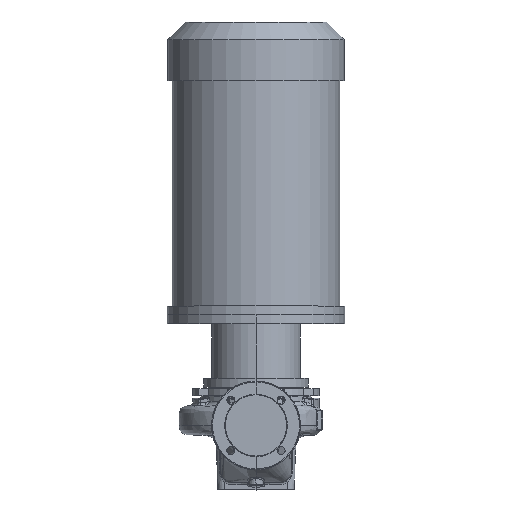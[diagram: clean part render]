
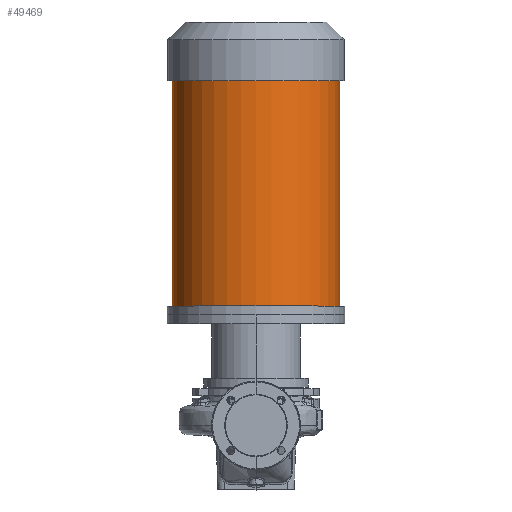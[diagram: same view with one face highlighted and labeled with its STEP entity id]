
A CAD part, top view. The second image highlights one B-rep face of the part: STEP entity #49469.
In plain terms, the highlighted cylindrical face has radius 188.5 mm (diameter 377 mm), a partial arc.
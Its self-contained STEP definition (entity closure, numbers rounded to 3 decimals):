
#1171 = DIRECTION ( 'NONE',  ( 0., -1., 0. ) ) ;
#2344 = CARTESIAN_POINT ( 'NONE',  ( 0., 269.3, 0. ) ) ;
#4484 = DIRECTION ( 'NONE',  ( 0., -1., 0. ) ) ;
#7440 = CARTESIAN_POINT ( 'NONE',  ( -188.5, 269.3, 0. ) ) ;
#9041 = ORIENTED_EDGE ( 'NONE', *, *, #53490, .F. ) ;
#10095 = CIRCLE ( 'NONE', #53059, 188.5 ) ;
#10463 = DIRECTION ( 'NONE',  ( -1., 0., 0. ) ) ;
#14971 = CYLINDRICAL_SURFACE ( 'NONE', #48703, 188.5 ) ;
#15133 = EDGE_CURVE ( 'NONE', #50099, #50640, #63560, .T. ) ;
#15307 = CARTESIAN_POINT ( 'NONE',  ( 0., 249.3, 0. ) ) ;
#15986 = ORIENTED_EDGE ( 'NONE', *, *, #62536, .T. ) ;
#17643 = CARTESIAN_POINT ( 'NONE',  ( -188.5, 249.3, 0. ) ) ;
#17801 = ORIENTED_EDGE ( 'NONE', *, *, #15133, .F. ) ;
#17871 = DIRECTION ( 'NONE',  ( 0., -1., 0. ) ) ;
#18500 = FACE_OUTER_BOUND ( 'NONE', #27914, .T. ) ;
#22731 = ORIENTED_EDGE ( 'NONE', *, *, #65569, .T. ) ;
#27914 = EDGE_LOOP ( 'NONE', ( #17801, #15986, #22731, #9041 ) ) ;
#30351 = VECTOR ( 'NONE', #1171, 1000. ) ;
#33393 = CARTESIAN_POINT ( 'NONE',  ( 188.5, 269.3, 0. ) ) ;
#35295 = CIRCLE ( 'NONE', #43710, 188.5 ) ;
#39573 = VERTEX_POINT ( 'NONE', #7440 ) ;
#43710 = AXIS2_PLACEMENT_3D ( 'NONE', #66396, #4484, #55407 ) ;
#48703 = AXIS2_PLACEMENT_3D ( 'NONE', #15307, #49664, #10463 ) ;
#49469 = ADVANCED_FACE ( 'NONE', ( #18500 ), #14971, .T. ) ;
#49664 = DIRECTION ( 'NONE',  ( 0., -1., 0. ) ) ;
#50099 = VERTEX_POINT ( 'NONE', #61117 ) ;
#50640 = VERTEX_POINT ( 'NONE', #33393 ) ;
#51152 = VERTEX_POINT ( 'NONE', #53998 ) ;
#53059 = AXIS2_PLACEMENT_3D ( 'NONE', #2344, #68646, #63768 ) ;
#53490 = EDGE_CURVE ( 'NONE', #50640, #39573, #10095, .T. ) ;
#53998 = CARTESIAN_POINT ( 'NONE',  ( -188.5, 777.3, 0. ) ) ;
#55407 = DIRECTION ( 'NONE',  ( -1., 0., 0. ) ) ;
#60917 = LINE ( 'NONE', #17643, #67942 ) ;
#61117 = CARTESIAN_POINT ( 'NONE',  ( 188.5, 777.3, 0. ) ) ;
#62364 = CARTESIAN_POINT ( 'NONE',  ( 188.5, 249.3, 0. ) ) ;
#62536 = EDGE_CURVE ( 'NONE', #50099, #51152, #35295, .T. ) ;
#63560 = LINE ( 'NONE', #62364, #30351 ) ;
#63768 = DIRECTION ( 'NONE',  ( -1., 0., 0. ) ) ;
#65569 = EDGE_CURVE ( 'NONE', #51152, #39573, #60917, .T. ) ;
#66396 = CARTESIAN_POINT ( 'NONE',  ( 0., 777.3, 0. ) ) ;
#67942 = VECTOR ( 'NONE', #17871, 1000. ) ;
#68646 = DIRECTION ( 'NONE',  ( 0., -1., 0. ) ) ;
